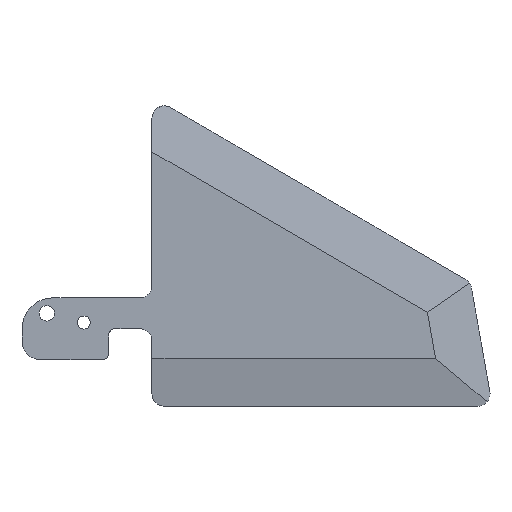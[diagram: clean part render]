
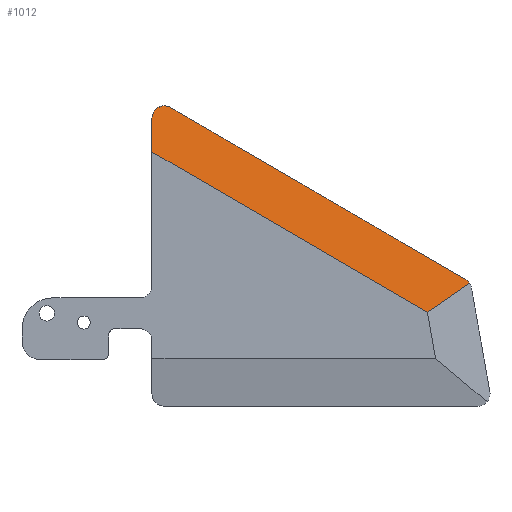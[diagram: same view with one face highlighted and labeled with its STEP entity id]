
A CAD part, top view. The second image highlights one B-rep face of the part: STEP entity #1012.
In plain terms, the highlighted planar face has unit normal (0.087, 0.149, 0.985).
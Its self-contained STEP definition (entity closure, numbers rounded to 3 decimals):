
#12 = EDGE_CURVE ( 'NONE', #914, #402, #88, .T. ) ;
#21 = CARTESIAN_POINT ( 'NONE',  ( 50.672, 20.467, 0.15 ) ) ;
#65 = CARTESIAN_POINT ( 'NONE',  ( 51.306, 19.883, 0.183 ) ) ;
#85 = CARTESIAN_POINT ( 'NONE',  ( 0.873, 48.172, 0.35 ) ) ;
#88 = B_SPLINE_CURVE_WITH_KNOTS ( 'NONE', 3,
 ( #726, #579, #1131, #21 ),
 .UNSPECIFIED., .F., .F.,
 ( 4, 4 ),
 ( 0., 1. ),
 .UNSPECIFIED. ) ;
#106 = DIRECTION ( 'NONE',  ( 0.864, -0.504, 0. ) ) ;
#132 = VERTEX_POINT ( 'NONE', #1018 ) ;
#158 = CARTESIAN_POINT ( 'NONE',  ( 0.282, 47.545, 0.497 ) ) ;
#171 = CARTESIAN_POINT ( 'NONE',  ( 0.737, 48.072, 0.377 ) ) ;
#172 = EDGE_LOOP ( 'NONE', ( #1169, #978, #323, #180, #224, #234 ) ) ;
#180 = ORIENTED_EDGE ( 'NONE', *, *, #12, .T. ) ;
#184 = CARTESIAN_POINT ( 'NONE',  ( 0., 46.519, 0.677 ) ) ;
#200 = CARTESIAN_POINT ( 'NONE',  ( 0.99, 48.246, 0.328 ) ) ;
#215 = CARTESIAN_POINT ( 'NONE',  ( 44.511, 15.146, 1.5 ) ) ;
#224 = ORIENTED_EDGE ( 'NONE', *, *, #913, .F. ) ;
#227 = CARTESIAN_POINT ( 'NONE',  ( 2.409, 48.508, 0.165 ) ) ;
#234 = ORIENTED_EDGE ( 'NONE', *, *, #673, .F. ) ;
#258 = EDGE_CURVE ( 'NONE', #931, #1009, #587, .T. ) ;
#268 = CARTESIAN_POINT ( 'NONE',  ( 51.306, 19.883, 0.183 ) ) ;
#323 = ORIENTED_EDGE ( 'NONE', *, *, #659, .F. ) ;
#326 = B_SPLINE_CURVE_WITH_KNOTS ( 'NONE', 3,
 ( #538, #551, #1222, #915, #924, #756, #430, #1117, #158, #674, #972, #779, #1155, #581, #875, #1162, #171, #559, #85, #500, #991, #1192, #520, #200, #1073, #717, #617, #984, #513, #227, #1168, #1000 ),
 .UNSPECIFIED., .F., .F.,
 ( 4, 2, 2, 2, 1, 1, 1, 2, 2, 2, 2, 2, 1, 1, 1, 2, 2, 2, 4 ),
 ( 0., 0.125, 0.188, 0.219, 0.234, 0.242, 0.246, 0.248, 0.25, 0.375, 0.438, 0.469, 0.484, 0.492, 0.496, 0.498, 0.5, 0.75, 1. ),
 .UNSPECIFIED. ) ;
#341 = CARTESIAN_POINT ( 'NONE',  ( 0., 41.088, 1.5 ) ) ;
#353 = CARTESIAN_POINT ( 'NONE',  ( 3.007, 48.247, 0.15 ) ) ;
#373 = CARTESIAN_POINT ( 'NONE',  ( 0., 46.519, 0.677 ) ) ;
#377 = CARTESIAN_POINT ( 'NONE',  ( 25.336, 30.777, 0.825 ) ) ;
#402 = VERTEX_POINT ( 'NONE', #1196 ) ;
#430 = CARTESIAN_POINT ( 'NONE',  ( 0.21, 47.414, 0.523 ) ) ;
#474 = FACE_OUTER_BOUND ( 'NONE', #172, .T. ) ;
#479 = EDGE_CURVE ( 'NONE', #1009, #732, #1209, .T. ) ;
#500 = CARTESIAN_POINT ( 'NONE',  ( 0.9, 48.19, 0.345 ) ) ;
#513 = CARTESIAN_POINT ( 'NONE',  ( 1.709, 48.529, 0.224 ) ) ;
#520 = CARTESIAN_POINT ( 'NONE',  ( 0.979, 48.239, 0.33 ) ) ;
#538 = CARTESIAN_POINT ( 'NONE',  ( 0., 46.519, 0.677 ) ) ;
#551 = CARTESIAN_POINT ( 'NONE',  ( 0., 46.633, 0.66 ) ) ;
#559 = CARTESIAN_POINT ( 'NONE',  ( 0.793, 48.115, 0.366 ) ) ;
#569 = DIRECTION ( 'NONE',  ( 0., -0.989, 0.15 ) ) ;
#579 = CARTESIAN_POINT ( 'NONE',  ( 51.137, 20.124, 0.161 ) ) ;
#581 = CARTESIAN_POINT ( 'NONE',  ( 0.347, 47.645, 0.476 ) ) ;
#587 = LINE ( 'NONE', #373, #1159 ) ;
#617 = CARTESIAN_POINT ( 'NONE',  ( 0.998, 48.25, 0.327 ) ) ;
#659 = EDGE_CURVE ( 'NONE', #914, #732, #854, .T. ) ;
#673 = EDGE_CURVE ( 'NONE', #931, #132, #326, .T. ) ;
#674 = CARTESIAN_POINT ( 'NONE',  ( 0.314, 47.596, 0.486 ) ) ;
#717 = CARTESIAN_POINT ( 'NONE',  ( 0.998, 48.25, 0.327 ) ) ;
#726 = CARTESIAN_POINT ( 'NONE',  ( 51.306, 19.883, 0.183 ) ) ;
#732 = VERTEX_POINT ( 'NONE', #215 ) ;
#756 = CARTESIAN_POINT ( 'NONE',  ( 0.182, 47.356, 0.534 ) ) ;
#760 = LINE ( 'NONE', #353, #797 ) ;
#779 = CARTESIAN_POINT ( 'NONE',  ( 0.339, 47.633, 0.479 ) ) ;
#797 = VECTOR ( 'NONE', #106, 1000. ) ;
#840 = AXIS2_PLACEMENT_3D ( 'NONE', #377, #1144, #1130 ) ;
#847 = DIRECTION ( 'NONE',  ( -0.81, -0.565, 0.157 ) ) ;
#854 = LINE ( 'NONE', #65, #1127 ) ;
#863 = PLANE ( 'NONE',  #840 ) ;
#875 = CARTESIAN_POINT ( 'NONE',  ( 0.453, 47.801, 0.443 ) ) ;
#913 = EDGE_CURVE ( 'NONE', #132, #402, #760, .T. ) ;
#914 = VERTEX_POINT ( 'NONE', #268 ) ;
#915 = CARTESIAN_POINT ( 'NONE',  ( 0.078, 47.083, 0.584 ) ) ;
#924 = CARTESIAN_POINT ( 'NONE',  ( 0.111, 47.189, 0.565 ) ) ;
#931 = VERTEX_POINT ( 'NONE', #184 ) ;
#965 = VECTOR ( 'NONE', #1119, 1000. ) ;
#972 = CARTESIAN_POINT ( 'NONE',  ( 0.331, 47.622, 0.481 ) ) ;
#978 = ORIENTED_EDGE ( 'NONE', *, *, #479, .T. ) ;
#984 = CARTESIAN_POINT ( 'NONE',  ( 1.336, 48.445, 0.268 ) ) ;
#991 = CARTESIAN_POINT ( 'NONE',  ( 0.938, 48.214, 0.338 ) ) ;
#1000 = CARTESIAN_POINT ( 'NONE',  ( 3.007, 48.247, 0.15 ) ) ;
#1009 = VERTEX_POINT ( 'NONE', #1057 ) ;
#1012 = ADVANCED_FACE ( 'NONE', ( #474 ), #863, .F. ) ;
#1018 = CARTESIAN_POINT ( 'NONE',  ( 3.007, 48.247, 0.15 ) ) ;
#1057 = CARTESIAN_POINT ( 'NONE',  ( 0., 41.088, 1.5 ) ) ;
#1073 = CARTESIAN_POINT ( 'NONE',  ( 0.995, 48.248, 0.328 ) ) ;
#1117 = CARTESIAN_POINT ( 'NONE',  ( 0.257, 47.501, 0.506 ) ) ;
#1119 = DIRECTION ( 'NONE',  ( 0.864, -0.504, 0. ) ) ;
#1127 = VECTOR ( 'NONE', #847, 1000. ) ;
#1130 = DIRECTION ( 'NONE',  ( 0., -0.989, 0.15 ) ) ;
#1131 = CARTESIAN_POINT ( 'NONE',  ( 50.926, 20.319, 0.15 ) ) ;
#1144 = DIRECTION ( 'NONE',  ( -0.087, -0.149, -0.985 ) ) ;
#1155 = CARTESIAN_POINT ( 'NONE',  ( 0.344, 47.64, 0.477 ) ) ;
#1159 = VECTOR ( 'NONE', #569, 1000. ) ;
#1162 = CARTESIAN_POINT ( 'NONE',  ( 0.569, 47.925, 0.414 ) ) ;
#1168 = CARTESIAN_POINT ( 'NONE',  ( 2.736, 48.406, 0.15 ) ) ;
#1169 = ORIENTED_EDGE ( 'NONE', *, *, #258, .T. ) ;
#1192 = CARTESIAN_POINT ( 'NONE',  ( 0.957, 48.226, 0.334 ) ) ;
#1196 = CARTESIAN_POINT ( 'NONE',  ( 50.672, 20.467, 0.15 ) ) ;
#1209 = LINE ( 'NONE', #341, #965 ) ;
#1222 = CARTESIAN_POINT ( 'NONE',  ( 0.008, 46.791, 0.635 ) ) ;
